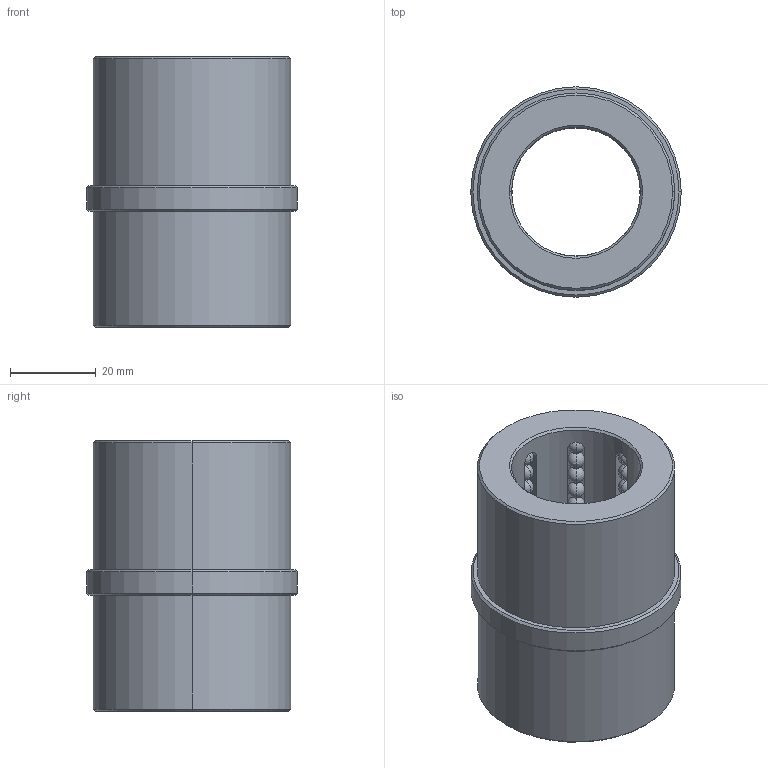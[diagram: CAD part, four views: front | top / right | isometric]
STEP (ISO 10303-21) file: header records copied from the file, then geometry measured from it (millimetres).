
FILE_DESCRIPTION((''),'2;1');
FILE_NAME('B844302736','2018-01-24T',('MANU'),(''),'PRO/ENGINEER BY PARAMETRIC TECHNOLOGY CORPORATION, 2012130','PRO/ENGINEER BY PARAMETRIC TECHNOLOGY CORPORATION, 2012130','');
FILE_SCHEMA(('CONFIG_CONTROL_DESIGN'));
Length unit declared in the file: millimetre
Products named in the file (1): B844302736
Bounding box: 49 x 49 x 63 mm (x, y, z)
Volume: 58151.6 mm3; surface area: 26092.7 mm2
Topology: 105 solids, 105 shells, 272 faces, 774 edges, 304 vertices
Faces by surface type: sphere 208, plane 28, cylinder 24, cone 12
Entity records: 6092 total; most frequent: CARTESIAN_POINT 1250, DIRECTION 1134, ORIENTED_EDGE 716, AXIS2_PLACEMENT_3D 524, EDGE_CURVE 358, VERTEX_POINT 304, EDGE_LOOP 282, FACE_OUTER_BOUND 272
